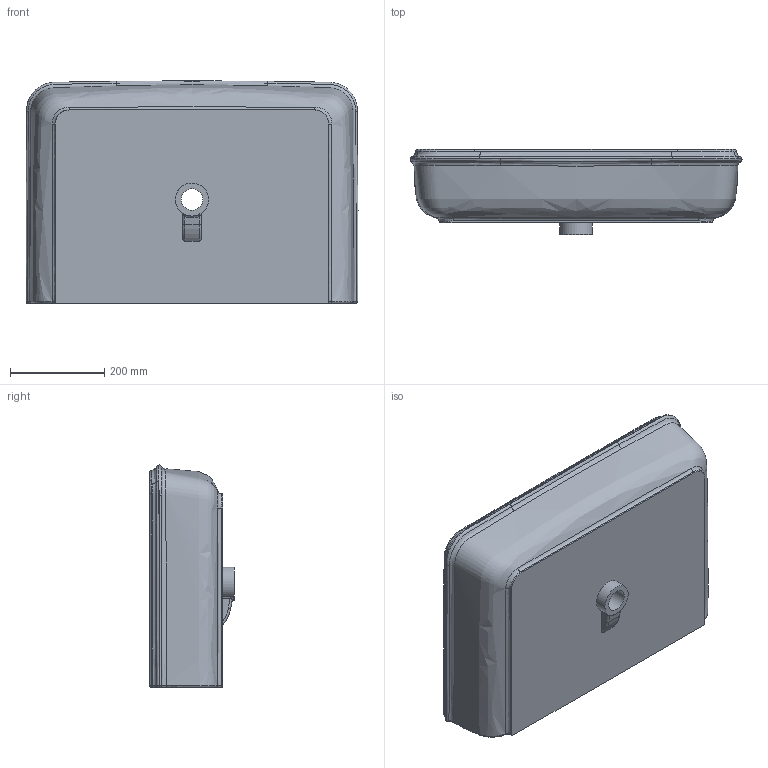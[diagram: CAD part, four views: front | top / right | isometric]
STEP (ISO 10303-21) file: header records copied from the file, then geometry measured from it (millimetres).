
FILE_DESCRIPTION (( 'STEP AP203' ), '1' );
FILE_NAME ('CHLP06846T0M.STEP', '2022-11-17T15:54:39', ( '' ), ( '' ), 'SwSTEP 2.0', 'SolidWorks 2021', '' );
FILE_SCHEMA (( 'CONFIG_CONTROL_DESIGN' ));
Length unit declared in the file: millimetre
Products named in the file (1): CHLP06846T0M
Bounding box: 704.02 x 180 x 471.88 mm (x, y, z)
Volume: 28431826.5 mm3; surface area: 1084883.8 mm2
Topology: 1 solids, 1 shells, 100 faces, 259 edges, 163 vertices
Faces by surface type: bspline 69, cylinder 15, plane 11, torus 4, cone 1
Full cylindrical faces by diameter (mm): 25 x1, 46 x1, 70 x1
Entity records: 13401 total; most frequent: CARTESIAN_POINT 11426, ORIENTED_EDGE 494, DIRECTION 248, EDGE_CURVE 247, VERTEX_POINT 159, B_SPLINE_CURVE_WITH_KNOTS 136, EDGE_LOOP 112, AXIS2_PLACEMENT_3D 109
